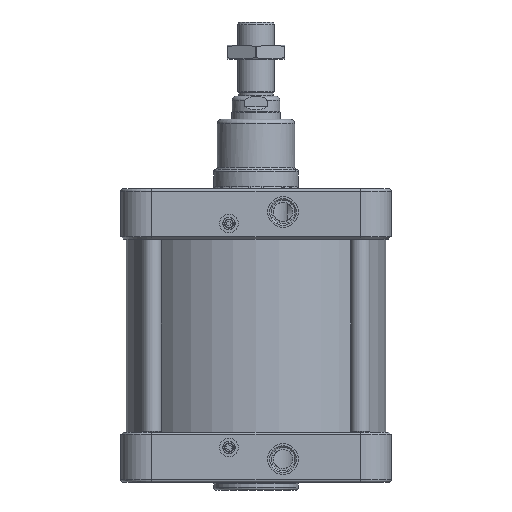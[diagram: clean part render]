
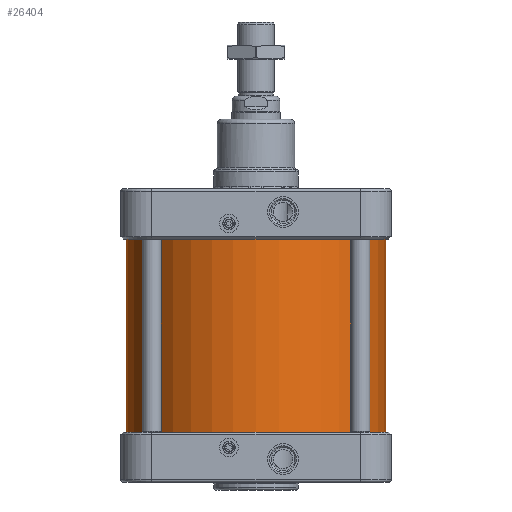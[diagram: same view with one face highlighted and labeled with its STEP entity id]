
A CAD part, front view. The second image highlights one B-rep face of the part: STEP entity #26404.
In plain terms, the highlighted cylindrical face has radius 168 mm (diameter 336 mm), a full revolution.
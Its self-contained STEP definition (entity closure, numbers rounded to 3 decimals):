
#2804=CIRCLE('',#29645,168.);
#2805=CIRCLE('',#29647,168.);
#3478=FACE_BOUND('',#7098,.T.);
#5147=FACE_OUTER_BOUND('',#7097,.T.);
#7097=EDGE_LOOP('',(#22547));
#7098=EDGE_LOOP('',(#22548));
#11979=VERTEX_POINT('',#64759);
#11980=VERTEX_POINT('',#64762);
#15511=EDGE_CURVE('',#11979,#11979,#2804,.T.);
#15512=EDGE_CURVE('',#11980,#11980,#2805,.T.);
#22547=ORIENTED_EDGE('',*,*,#15511,.T.);
#22548=ORIENTED_EDGE('',*,*,#15512,.T.);
#23070=CYLINDRICAL_SURFACE('',#29646,168.);
#26404=ADVANCED_FACE('',(#5147,#3478),#23070,.T.);
#29645=AXIS2_PLACEMENT_3D('',#64760,#36878,#36879);
#29646=AXIS2_PLACEMENT_3D('',#64761,#36880,#36881);
#29647=AXIS2_PLACEMENT_3D('',#64763,#36882,#36883);
#36878=DIRECTION('center_axis',(0.,0.,1.));
#36879=DIRECTION('ref_axis',(-1.,0.,0.));
#36880=DIRECTION('center_axis',(0.,0.,1.));
#36881=DIRECTION('ref_axis',(-1.,0.,0.));
#36882=DIRECTION('center_axis',(0.,0.,-1.));
#36883=DIRECTION('ref_axis',(-1.,0.,0.));
#64759=CARTESIAN_POINT('',(168.,0.,-125.));
#64760=CARTESIAN_POINT('Origin',(0.,0.,-125.));
#64761=CARTESIAN_POINT('Origin',(0.,0.,0.));
#64762=CARTESIAN_POINT('',(168.,0.,125.));
#64763=CARTESIAN_POINT('Origin',(0.,0.,125.));
